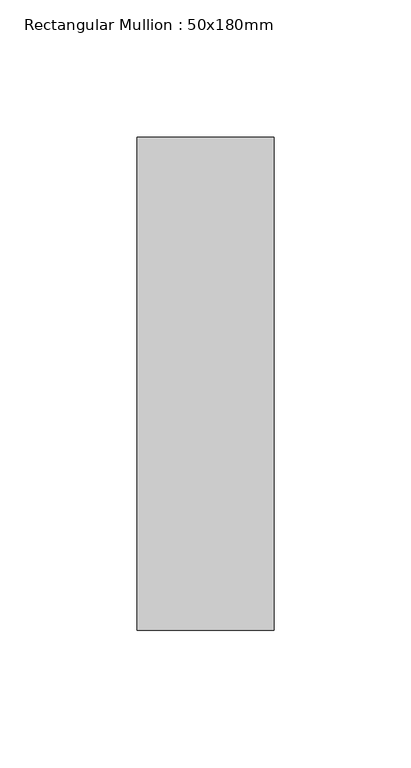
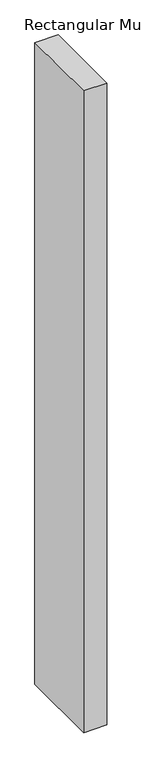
"""IFC4 building model written with IfcOpenShell, lengths in millimetres: member geometry, Rectangular Mullion : 50x180mm."""

from ifc_helpers import new_model, si_unit, frame, origin, place, context, project, spatial, polyline, outline, extrude, source, transform, mapped, element, save


def rectangular_mullion_50x180mm_fd91253e(model_context):
    return source(origin(), model_context, "Body", "SweptSolid", [
        extrude(outline(polyline([(25.0, 90.0), (25.0, -90.0), (-25.0, -90.0), (-25.0, 90.0), (25.0, 90.0)])), frame((0.0, 0.0, -1450.0), z_axis=(0.0, 0.0, 1.0), x_axis=(1.0, 0.0, 0.0)), (0.0, 0.0, 1.0), 1450.0),
    ])


if __name__ == "__main__":
    model = new_model("IFC4")
    model_context = context("Model", 3, world=origin())
    ifc_project = project(units=[si_unit("LENGTHUNIT", "METRE", prefix="MILLI")], contexts=[model_context])
    site = spatial("IfcSite", under=ifc_project)
    building = spatial("IfcBuilding", under=site)
    placement = place(None, origin())
    rectangular_mullion_50x180mm_shape = rectangular_mullion_50x180mm_fd91253e(model_context)
    element("IfcMember", 1, ObjectType="Rectangular Mullion : 50x180mm", at=placement, inside=building, context=model_context, shape_type="MappedRepresentation", body=[
        mapped(rectangular_mullion_50x180mm_shape, transform((0.0, 0.0, 0.0), x_axis=(1.0, 0.0, 0.0), y_axis=(0.0, 1.0, 0.0), z_axis=(0.0, 0.0, 1.0))),
    ])
    save(model, "model.ifc")
